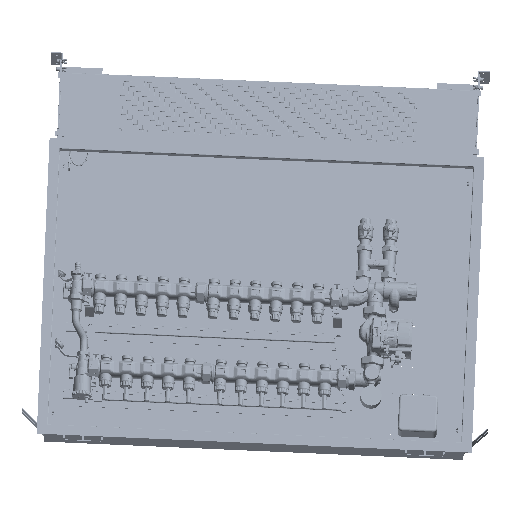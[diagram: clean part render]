
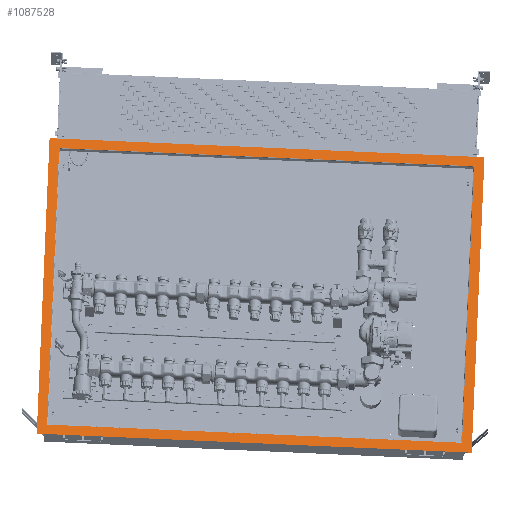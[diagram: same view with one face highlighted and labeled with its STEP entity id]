
A CAD part, left-side view. The second image highlights one B-rep face of the part: STEP entity #1087528.
In plain terms, the highlighted planar face has unit normal (-0.942, -0.016, 0.336).
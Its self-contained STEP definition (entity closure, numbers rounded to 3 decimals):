
#1087198=CARTESIAN_POINT('Vertex',(-432.098,611.399,-262.826)) ;
#1087212=CARTESIAN_POINT('Vertex',(-430.994,-427.604,-308.34)) ;
#1087215=CARTESIAN_POINT('Line Origine',(-431.546,91.898,-285.583)) ;
#1087244=CARTESIAN_POINT('Vertex',(-179.099,-458.253,397.429)) ;
#1087247=CARTESIAN_POINT('Line Origine',(-305.047,-442.928,44.545)) ;
#1087276=CARTESIAN_POINT('Vertex',(-180.202,580.75,442.943)) ;
#1087279=CARTESIAN_POINT('Line Origine',(-179.651,61.249,420.186)) ;
#1087302=CARTESIAN_POINT('Line Origine',(-306.15,596.075,90.059)) ;
#1087483=CARTESIAN_POINT('Axis2P3D Location',(-305.598,76.573,67.302)) ;
#1087494=CARTESIAN_POINT('Line Origine',(-187.711,62.229,397.601)) ;
#1087498=CARTESIAN_POINT('Vertex',(-188.237,557.754,419.308)) ;
#1087500=CARTESIAN_POINT('Vertex',(-187.185,-433.295,375.895)) ;
#1087503=CARTESIAN_POINT('Line Origine',(-305.072,-418.951,45.595)) ;
#1087507=CARTESIAN_POINT('Vertex',(-422.959,-404.608,-284.705)) ;
#1087510=CARTESIAN_POINT('Line Origine',(-423.485,90.917,-262.998)) ;
#1087514=CARTESIAN_POINT('Vertex',(-424.011,586.441,-241.292)) ;
#1087517=CARTESIAN_POINT('Line Origine',(-306.124,572.098,89.008)) ;
#1087217=VECTOR('Line Direction',#1087216,1.) ;
#1087249=VECTOR('Line Direction',#1087248,1.) ;
#1087281=VECTOR('Line Direction',#1087280,1.) ;
#1087304=VECTOR('Line Direction',#1087303,1.) ;
#1087496=VECTOR('Line Direction',#1087495,1.) ;
#1087505=VECTOR('Line Direction',#1087504,1.) ;
#1087512=VECTOR('Line Direction',#1087511,1.) ;
#1087519=VECTOR('Line Direction',#1087518,1.) ;
#1087216=DIRECTION('Vector Direction',(-0.001,0.999,0.044)) ;
#1087248=DIRECTION('Vector Direction',(0.336,-0.041,0.941)) ;
#1087280=DIRECTION('Vector Direction',(-0.001,0.999,0.044)) ;
#1087303=DIRECTION('Vector Direction',(-0.336,0.041,-0.941)) ;
#1087484=DIRECTION('Axis2P3D Direction',(-0.942,-0.016,0.335)) ;
#1087485=DIRECTION('Axis2P3D XDirection',(-0.001,0.999,0.044)) ;
#1087495=DIRECTION('Vector Direction',(0.001,-0.999,-0.044)) ;
#1087504=DIRECTION('Vector Direction',(0.336,-0.041,0.941)) ;
#1087511=DIRECTION('Vector Direction',(-0.001,0.999,0.044)) ;
#1087518=DIRECTION('Vector Direction',(-0.336,0.041,-0.941)) ;
#1087486=AXIS2_PLACEMENT_3D('Plane Axis2P3D',#1087483,#1087484,#1087485) ;
#1087218=LINE('Line',#1087215,#1087217) ;
#1087250=LINE('Line',#1087247,#1087249) ;
#1087282=LINE('Line',#1087279,#1087281) ;
#1087305=LINE('Line',#1087302,#1087304) ;
#1087497=LINE('Line',#1087494,#1087496) ;
#1087506=LINE('Line',#1087503,#1087505) ;
#1087513=LINE('Line',#1087510,#1087512) ;
#1087520=LINE('Line',#1087517,#1087519) ;
#1087487=PLANE('',#1087486) ;
#1087527=FACE_BOUND('',#1087522,.T.) ;
#1087219=EDGE_CURVE('',#1087199,#1087213,#1087218,.F.) ;
#1087251=EDGE_CURVE('',#1087213,#1087245,#1087250,.T.) ;
#1087283=EDGE_CURVE('',#1087245,#1087277,#1087282,.T.) ;
#1087306=EDGE_CURVE('',#1087277,#1087199,#1087305,.T.) ;
#1087502=EDGE_CURVE('',#1087499,#1087501,#1087497,.T.) ;
#1087509=EDGE_CURVE('',#1087501,#1087508,#1087506,.F.) ;
#1087516=EDGE_CURVE('',#1087508,#1087515,#1087513,.T.) ;
#1087521=EDGE_CURVE('',#1087515,#1087499,#1087520,.F.) ;
#1087489=ORIENTED_EDGE('',*,*,#1087219,.T.) ;
#1087490=ORIENTED_EDGE('',*,*,#1087251,.T.) ;
#1087491=ORIENTED_EDGE('',*,*,#1087283,.T.) ;
#1087492=ORIENTED_EDGE('',*,*,#1087306,.T.) ;
#1087523=ORIENTED_EDGE('',*,*,#1087502,.T.) ;
#1087524=ORIENTED_EDGE('',*,*,#1087509,.T.) ;
#1087525=ORIENTED_EDGE('',*,*,#1087516,.T.) ;
#1087526=ORIENTED_EDGE('',*,*,#1087521,.T.) ;
#1087488=EDGE_LOOP('',(#1087489,#1087490,#1087491,#1087492)) ;
#1087522=EDGE_LOOP('',(#1087523,#1087524,#1087525,#1087526)) ;
#1087199=VERTEX_POINT('',#1087198) ;
#1087213=VERTEX_POINT('',#1087212) ;
#1087245=VERTEX_POINT('',#1087244) ;
#1087277=VERTEX_POINT('',#1087276) ;
#1087499=VERTEX_POINT('',#1087498) ;
#1087501=VERTEX_POINT('',#1087500) ;
#1087508=VERTEX_POINT('',#1087507) ;
#1087515=VERTEX_POINT('',#1087514) ;
#1087528=ADVANCED_FACE('PartBody',(#1087493,#1087527),#1087487,.T.) ;
#1087493=FACE_OUTER_BOUND('',#1087488,.T.) ;
